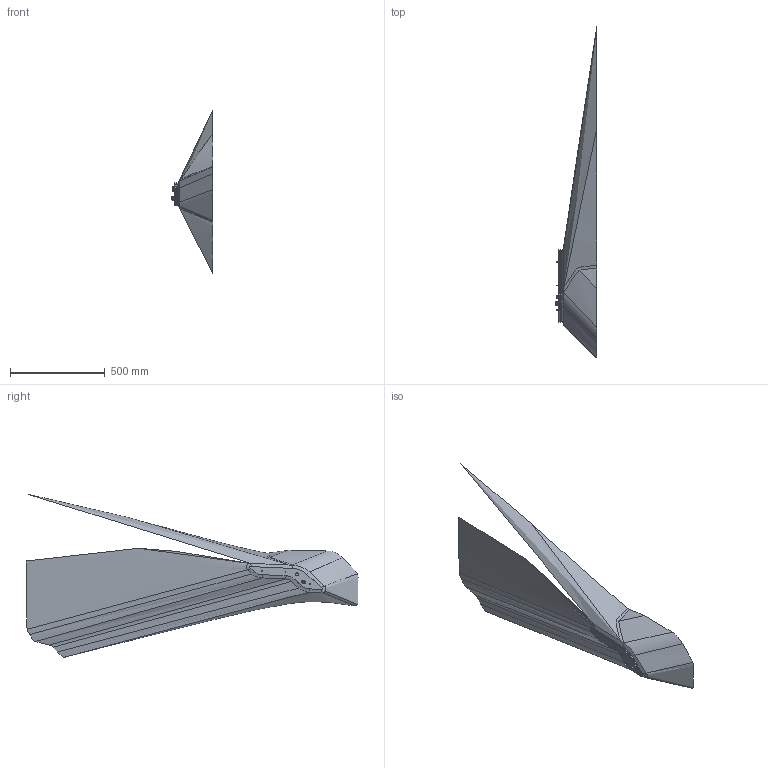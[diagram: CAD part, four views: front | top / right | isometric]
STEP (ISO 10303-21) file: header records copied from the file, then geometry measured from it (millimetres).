
FILE_DESCRIPTION(('CATIA V5 STEP Exchange','CAx-IF Rec.Pracs.--- Model Styling and Organization---1.5--- 2016-08-15','CAx-IF Rec.Pracs.---Supplemental Geometry---1.0---2011-11-01','CAx-IF Rec.Pracs.--- Composite Materials ---1.1---2010-07-15'),'2;1');
FILE_NAME('E:\tmp\ddx\2011204\3D_data_LED_direction_indicator_lamp_SHAPELINE_style_wing_2BA 013 334.stp','2022-01-18T07:29:16+00:00',('none'),('none'),'CATIA Version 5-6 Release 2020 SP3 HF9','CATIA V5 STEP AP214 Edition 3 v2','none');
FILE_SCHEMA(('AUTOMOTIVE_DESIGN { 1 0 10303 214 3 1 1 1 }'));
Products named in the file (1): 10002759096_D10_001
Bounding box: 219.1 x 1749.38 x 859.07 mm (x, y, z)
Volume: 360078.2 mm3; surface area: 1197030.1 mm2
Topology: 1 solids, 4 shells, 1270 faces, 3020 edges, 1764 vertices
Faces by surface type: bspline 522, cylinder 309, plane 263, torus 76, cone 62, extrusion 24, sphere 14
Entity records: 64736 total; most frequent: CARTESIAN_POINT 40908, ORIENTED_EDGE 5954, EDGE_CURVE 2995, DIRECTION 2801, VERTEX_POINT 1764, B_SPLINE_CURVE_WITH_KNOTS 1578, EDGE_LOOP 1313, ADVANCED_FACE 1270
